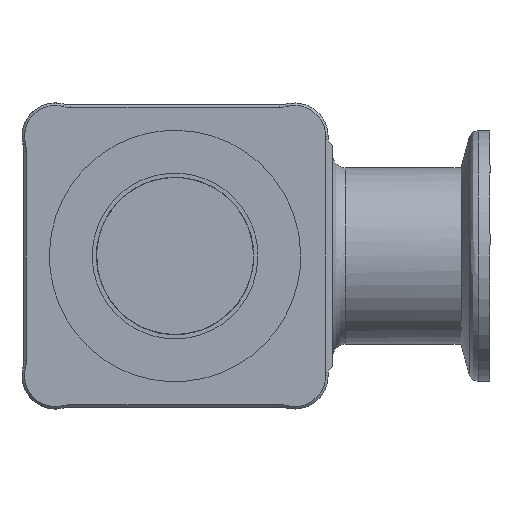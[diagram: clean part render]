
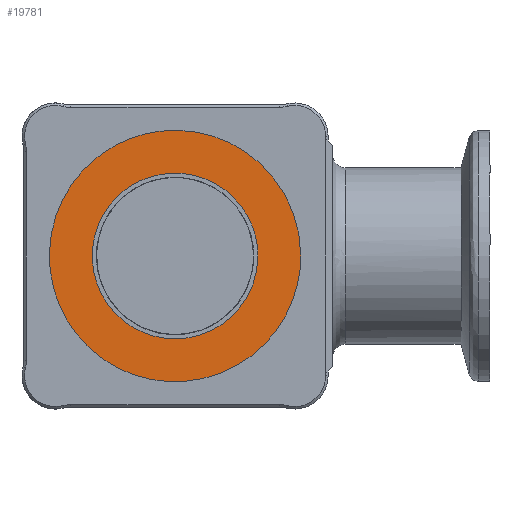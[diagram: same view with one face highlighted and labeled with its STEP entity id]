
A CAD part, front view. The second image highlights one B-rep face of the part: STEP entity #19781.
In plain terms, the highlighted free-form (B-spline) face has degree [1, 1] with [2, 2] control points.
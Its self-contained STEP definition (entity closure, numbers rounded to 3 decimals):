
#19723=CARTESIAN_POINT('V56',(13.15,-3.,
   0.0));
#19724=VERTEX_POINT('V56',#19723);
#19730=CARTESIAN_POINT('E90',(13.15,-3.,
   0.0));
#19731=CARTESIAN_POINT('E90',(13.15,-3.,
   -22.776));
#19732=CARTESIAN_POINT('E90',(-6.575,-3.,
   -11.388));
#19733=CARTESIAN_POINT('E90',(-26.3,-3.,
   0.));
#19734=CARTESIAN_POINT('E90',(-6.575,-3.,
   11.388));
#19735=CARTESIAN_POINT('E90',(13.15,-3.,
   22.776));
#19736=CARTESIAN_POINT('E90',(13.15,-3.,
   0.0));
#19744=(BOUNDED_CURVE()B_SPLINE_CURVE(2,(#19730,#19731,#19732,
   #19733,#19734,#19735,#19736),.CIRCULAR_ARC.,.T.,.U.)
   B_SPLINE_CURVE_WITH_KNOTS((3,2,2,3),(0.0,15.708,
   31.416,47.124),.UNSPECIFIED.)CURVE()
   GEOMETRIC_REPRESENTATION_ITEM()RATIONAL_B_SPLINE_CURVE((1.0,
   0.5,1.0,0.5,1.0,0.5,1.0)
   )REPRESENTATION_ITEM('E90'));
#19745=EDGE_CURVE('E90',#19724,#19724,#19744,.T.);
#19752=CARTESIAN_POINT('F42',(20.956,-3.0,
   -25.515));
#19753=CARTESIAN_POINT('F42',(20.956,-3.0,
   25.515));
#19754=CARTESIAN_POINT('F42',(-26.157,-3.0,
   -25.515));
#19755=CARTESIAN_POINT('F42',(-26.157,-3.0,
   25.515));
#19756=B_SPLINE_SURFACE_WITH_KNOTS('F42',1,1,((#19752,#19754),(
   #19753,#19755)),.PLANE_SURF.,.F.,.F.,.U.,(2,2),(2,2),(0.0,1.0),
   (0.606,1.529),.UNSPECIFIED.);
#19757=CARTESIAN_POINT('V57',(19.956,-3.,
   0.0));
#19758=VERTEX_POINT('V57',#19757);
#19759=CARTESIAN_POINT('E92',(19.956,-3.,
   0.0));
#19760=CARTESIAN_POINT('E92',(19.956,-3.,
   34.565));
#19761=CARTESIAN_POINT('E92',(-9.978,-3.,
   17.282));
#19762=CARTESIAN_POINT('E92',(-39.912,-3.,
   0.));
#19763=CARTESIAN_POINT('E92',(-9.978,-3.,
   -17.282));
#19764=CARTESIAN_POINT('E92',(19.956,-3.,
   -34.565));
#19765=CARTESIAN_POINT('E92',(19.956,-3.,
   0.0));
#19773=(BOUNDED_CURVE()B_SPLINE_CURVE(2,(#19759,#19760,#19761,
   #19762,#19763,#19764,#19765),.CIRCULAR_ARC.,.T.,.U.)
   B_SPLINE_CURVE_WITH_KNOTS((3,2,2,3),(0.0,0.333,
   0.667,1.0),.UNSPECIFIED.)CURVE()
   GEOMETRIC_REPRESENTATION_ITEM()RATIONAL_B_SPLINE_CURVE((1.0,
   0.5,1.0,0.5,1.0,0.5,1.0)
   )REPRESENTATION_ITEM('E92'));
#19774=EDGE_CURVE('E92',#19758,#19758,#19773,.T.);
#19775=ORIENTED_EDGE('E92',*,*,#19774,.F.);
#19776=EDGE_LOOP('F42',(#19775));
#19777=FACE_OUTER_BOUND('F42',#19776,.F.);
#19778=ORIENTED_EDGE('E90',*,*,#19745,.F.);
#19779=EDGE_LOOP('F42',(#19778));
#19780=FACE_BOUND('F42',#19779,.F.);
#19781=ADVANCED_FACE('F42',(#19777,#19780),#19756,.T.);
